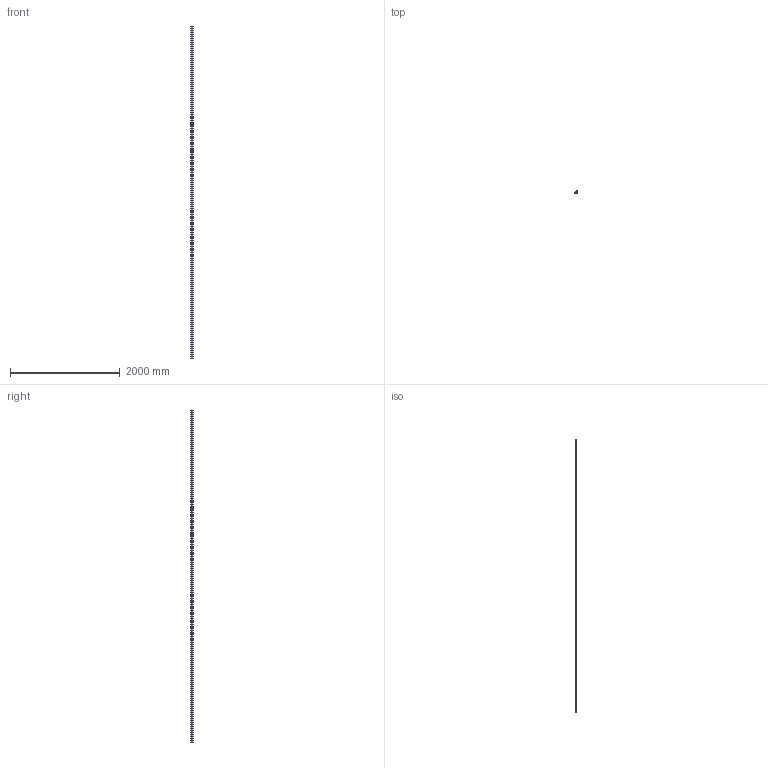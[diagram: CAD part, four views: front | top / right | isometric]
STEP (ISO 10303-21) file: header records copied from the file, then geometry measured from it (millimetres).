
FILE_DESCRIPTION (( 'STEP AP203' ), '1' );
FILE_NAME ('20206780_Profil 8 40x40 E 45°.step', '2021-06-25T09:07:28', ( '' ), ( '' ), 'SwSTEP 2.0', 'SolidWorks 2021', '' );
FILE_SCHEMA (( 'CONFIG_CONTROL_DESIGN' ));
Length unit declared in the file: millimetre
Products named in the file (1): 20206780_Profil 8 40x40 E 45°
Bounding box: 40 x 40 x 6060 mm (x, y, z)
Volume: 2750050.8 mm3; surface area: 2622721.9 mm2
Topology: 1 solids, 1 shells, 156 faces, 462 edges, 308 vertices
Faces by surface type: cylinder 94, plane 62
Entity records: 5391 total; most frequent: DIRECTION 964, CARTESIAN_POINT 927, ORIENTED_EDGE 924, EDGE_CURVE 462, AXIS2_PLACEMENT_3D 345, VERTEX_POINT 308, VECTOR 274, LINE 274
